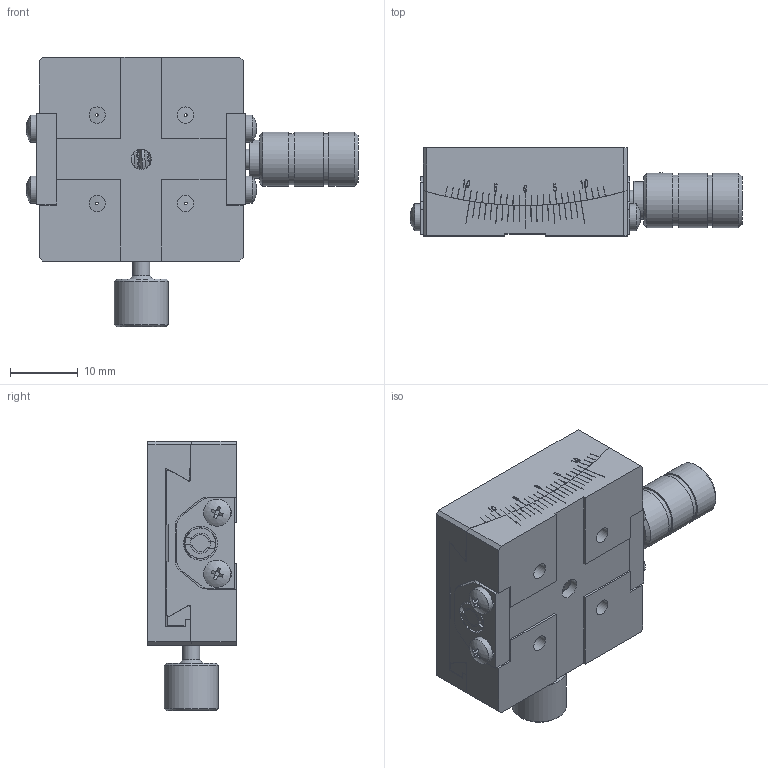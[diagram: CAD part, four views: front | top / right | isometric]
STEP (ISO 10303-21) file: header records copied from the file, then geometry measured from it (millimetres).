
FILE_DESCRIPTION (( 'STEP AP203' ), '1' );
FILE_NAME ('BFSG30-44.STEP', '2024-07-30T10:35:03', ( 'Windows User' ), ( 'P R C' ), 'SwSTEP 2.0', 'SolidWorks 2024', '' );
FILE_SCHEMA (( 'CONFIG_CONTROL_DESIGN' ));
Length unit declared in the file: millimetre
Products named in the file (1): BFSG30-44
Bounding box: 48.88 x 13 x 39.66 mm (x, y, z)
Volume: 11614.7 mm3; surface area: 9885.8 mm2
Topology: 14 solids, 14 shells, 548 faces, 1589 edges, 1090 vertices
Faces by surface type: plane 390, cylinder 113, cone 29, torus 7, bspline 5, sphere 4
Full cylindrical faces by diameter (mm): 1.6 x8, 2 x5, 2.05 x3, 2.4 x4, 2.5 x7, 3 x6, 4 x8, 4.5 x3, 5 x2, 5.6 x1, 7.5 x3, 8 x4
Entity records: 25741 total; most frequent: CARTESIAN_POINT 11600, ORIENTED_EDGE 2968, DIRECTION 2756, EDGE_CURVE 1484, VERTEX_POINT 1063, AXIS2_PLACEMENT_3D 921, LINE 914, VECTOR 914
